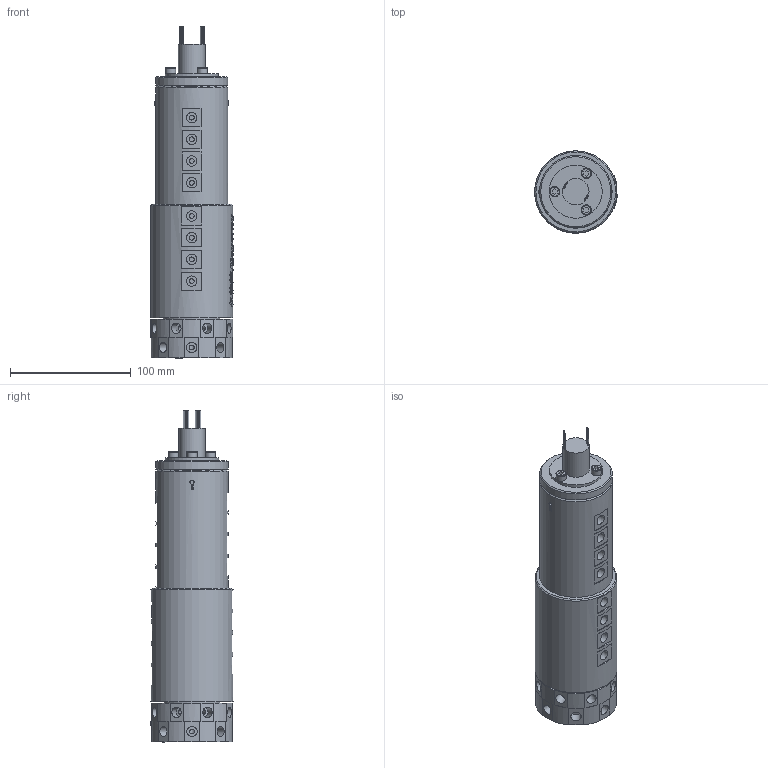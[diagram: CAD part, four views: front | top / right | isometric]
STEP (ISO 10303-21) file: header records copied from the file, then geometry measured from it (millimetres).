
FILE_DESCRIPTION(/* description */ (''),/* implementation_level */ '2;1');
FILE_NAME(/* name */ 'YQ1801-18M.stp',/* time_stamp */ '2025-02-15T15:39:04+08:00',/* author */ (''),/* organization */ (''),/* preprocessor_version */ 'ST-DEVELOPER v16.7',/* originating_system */ 'SIEMENS PLM Software NX 12.0',/* authorisation */ '');
FILE_SCHEMA (('AUTOMOTIVE_DESIGN { 1 0 10303 214 3 1 1 1 }'));
Products named in the file (1): HX0527348ECCpclo
Bounding box: 68.42 x 68 x 275.1 mm (x, y, z)
Volume: 731293.9 mm3; surface area: 92237.9 mm2
Topology: 1 solids, 12 shells, 1545 faces, 3993 edges, 2703 vertices
Faces by surface type: extrusion 671, plane 625, cylinder 201, bspline 33, cone 12, torus 3
Full cylindrical faces by diameter (mm): 0.8 x16, 3.4 x10, 4 x56, 4.1 x16, 4.2 x16, 5 x3, 5.5 x3, 7.8 x1, 8 x1, 8.5 x35, 22 x1, 44 x1, 47 x1, 60 x2, 68 x2
Entity records: 54380 total; most frequent: CARTESIAN_POINT 22446, ORIENTED_EDGE 7350, DIRECTION 4140, EDGE_CURVE 3675, B_SPLINE_CURVE_WITH_KNOTS 3112, VERTEX_POINT 2585, EDGE_LOOP 1968, ADVANCED_FACE 1542
